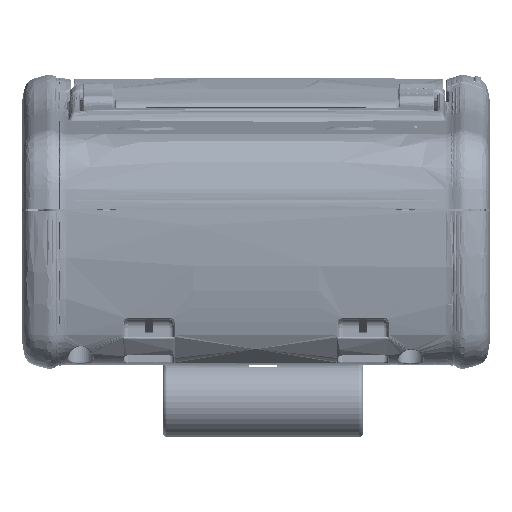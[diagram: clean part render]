
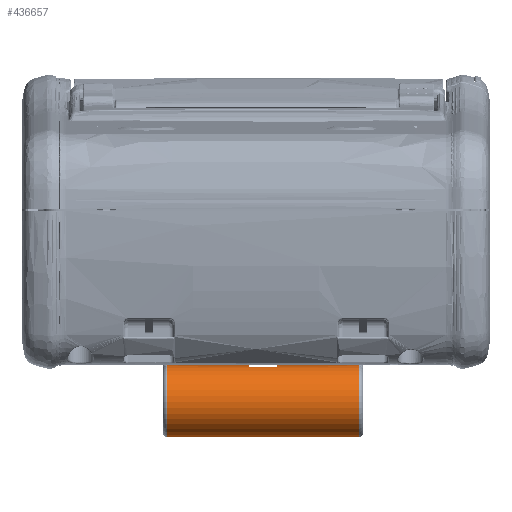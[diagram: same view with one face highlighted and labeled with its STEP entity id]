
A CAD part, top view. The second image highlights one B-rep face of the part: STEP entity #436657.
In plain terms, the highlighted cylindrical face has radius 7.9 mm (diameter 15.8 mm), a partial arc.
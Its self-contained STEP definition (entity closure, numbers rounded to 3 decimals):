
#431334=CARTESIAN_POINT('',(0.5,-12.4,70.8));
#431335=DIRECTION('',(-1.,0.,0.));
#431336=DIRECTION('',(0.,-0.798,-0.603));
#431337=AXIS2_PLACEMENT_3D('',#431334,#431335,#431336);
#431349=CARTESIAN_POINT('',(-41.5,-12.4,70.8));
#431350=DIRECTION('',(1.,0.,0.));
#431351=DIRECTION('',(0.,0.818,-0.575));
#431352=AXIS2_PLACEMENT_3D('',#431349,#431350,#431351);
#431354=DIRECTION('',(1.,0.,0.));
#431355=VECTOR('',#431354,42.);
#431356=CARTESIAN_POINT('',(-41.5,-5.936,66.258));
#431357=LINE('',#431356,#431355);
#431358=DIRECTION('',(1.,0.,0.));
#431359=VECTOR('',#431358,42.);
#431360=CARTESIAN_POINT('',(-41.5,-18.704,66.039));
#431361=LINE('',#431360,#431359);
#431362=DIRECTION('',(-1.,0.,0.));
#431363=VECTOR('',#431362,6.);
#431364=CARTESIAN_POINT('',(-17.5,-4.8,68.644));
#431365=LINE('',#431364,#431363);
#431366=CARTESIAN_POINT('',(-23.5,-12.4,70.8));
#431367=DIRECTION('',(1.,0.,0.));
#431368=DIRECTION('',(0.,0.962,-0.273));
#431369=AXIS2_PLACEMENT_3D('',#431366,#431367,#431368);
#431371=DIRECTION('',(1.,0.,0.));
#431372=VECTOR('',#431371,6.);
#431373=CARTESIAN_POINT('',(-23.5,-4.8,72.956));
#431374=LINE('',#431373,#431372);
#431375=CARTESIAN_POINT('',(-17.5,-12.4,70.8));
#431376=DIRECTION('',(-1.,0.,0.));
#431377=DIRECTION('',(0.,0.962,0.273));
#431378=AXIS2_PLACEMENT_3D('',#431375,#431376,#431377);
#434412=CARTESIAN_POINT('',(0.5,-5.936,66.258));
#434413=VERTEX_POINT('',#434412);
#434416=CARTESIAN_POINT('',(0.5,-18.704,66.039));
#434417=VERTEX_POINT('',#434416);
#434680=CARTESIAN_POINT('',(-41.5,-5.936,66.258));
#434681=VERTEX_POINT('',#434680);
#434684=CARTESIAN_POINT('',(-41.5,-18.704,66.039));
#434685=VERTEX_POINT('',#434684);
#435249=CARTESIAN_POINT('',(-23.5,-4.8,68.644));
#435250=CARTESIAN_POINT('',(-17.5,-4.8,68.644));
#435251=VERTEX_POINT('',#435249);
#435252=VERTEX_POINT('',#435250);
#435253=CARTESIAN_POINT('',(-23.5,-4.8,72.956));
#435254=CARTESIAN_POINT('',(-17.5,-4.8,72.956));
#435255=VERTEX_POINT('',#435253);
#435256=VERTEX_POINT('',#435254);
#436634=CARTESIAN_POINT('',(-42.5,-12.4,70.8));
#436635=DIRECTION('',(1.,0.,0.));
#436636=DIRECTION('',(0.,0.,1.));
#436637=AXIS2_PLACEMENT_3D('',#436634,#436635,#436636);
#436638=CYLINDRICAL_SURFACE('',#436637,7.9);
#436640=ORIENTED_EDGE('',*,*,#436639,.F.);
#436641=ORIENTED_EDGE('',*,*,#436602,.T.);
#436642=ORIENTED_EDGE('',*,*,#436625,.F.);
#436644=ORIENTED_EDGE('',*,*,#436643,.F.);
#436645=EDGE_LOOP('',(#436640,#436641,#436642,#436644));
#436646=FACE_OUTER_BOUND('',#436645,.F.);
#436648=ORIENTED_EDGE('',*,*,#436647,.T.);
#436650=ORIENTED_EDGE('',*,*,#436649,.T.);
#436652=ORIENTED_EDGE('',*,*,#436651,.T.);
#436654=ORIENTED_EDGE('',*,*,#436653,.T.);
#436655=EDGE_LOOP('',(#436648,#436650,#436652,#436654));
#436656=FACE_BOUND('',#436655,.F.);
#431338=CIRCLE('',#431337,7.9);
#431353=CIRCLE('',#431352,7.9);
#431370=CIRCLE('',#431369,7.9);
#431379=CIRCLE('',#431378,7.9);
#436602=EDGE_CURVE('',#434681,#434413,#431357,.T.);
#436625=EDGE_CURVE('',#434417,#434413,#431338,.T.);
#436639=EDGE_CURVE('',#434681,#434685,#431353,.T.);
#436643=EDGE_CURVE('',#434685,#434417,#431361,.T.);
#436647=EDGE_CURVE('',#435252,#435251,#431365,.T.);
#436649=EDGE_CURVE('',#435251,#435255,#431370,.T.);
#436651=EDGE_CURVE('',#435255,#435256,#431374,.T.);
#436653=EDGE_CURVE('',#435256,#435252,#431379,.T.);
#436657=ADVANCED_FACE('',(#436646,#436656),#436638,.T.);
